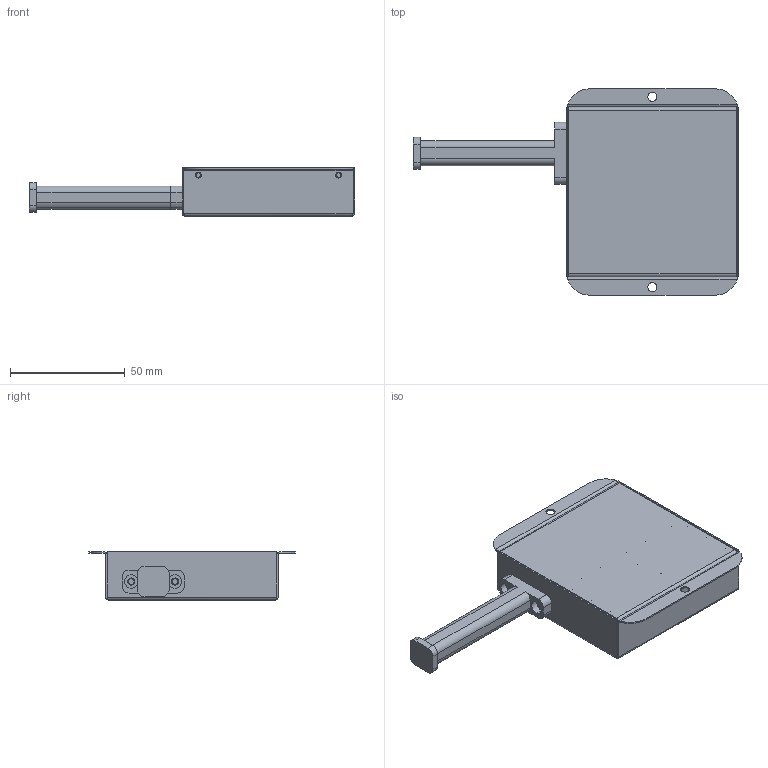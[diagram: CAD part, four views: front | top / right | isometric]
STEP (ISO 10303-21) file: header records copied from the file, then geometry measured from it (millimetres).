
FILE_DESCRIPTION (( 'STEP AP214' ), '1' );
FILE_NAME ('tf230.STEP', '2023-08-04T18:28:47', ( '' ), ( '' ), 'SwSTEP 2.0', 'SolidWorks 2015', '' );
FILE_SCHEMA (( 'AUTOMOTIVE_DESIGN' ));
Length unit declared in the file: millimetre
Products named in the file (6): tf230; Tampa Capa Antena; aa battery holder; IM004B; IM004T; Capa antena
Assembly tree (5 placements, depth 2):
  tf230
    IM004T
    aa battery holder
    IM004B
    Tampa Capa Antena
    Capa antena
Bounding box: 141.5 x 89.8 x 21 mm (x, y, z)
Volume: 51190.3 mm3; surface area: 50173.7 mm2
Topology: 5 solids, 5 shells, 183 faces, 446 edges, 276 vertices
Faces by surface type: plane 89, cylinder 86, bspline 8
Entity records: 5990 total; most frequent: CARTESIAN_POINT 1313, DIRECTION 940, ORIENTED_EDGE 892, EDGE_CURVE 446, AXIS2_PLACEMENT_3D 339, VERTEX_POINT 276, LINE 262, VECTOR 262
